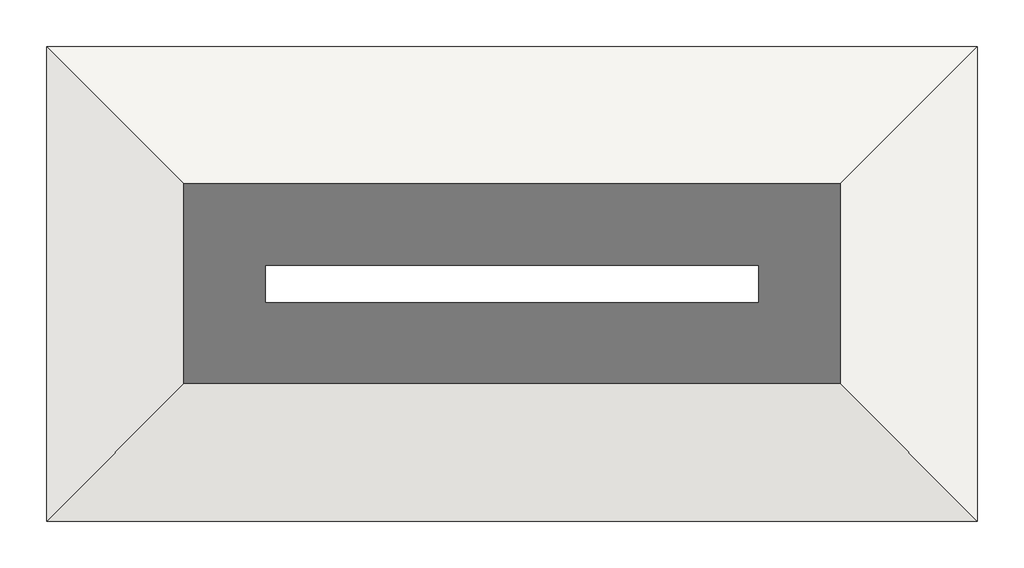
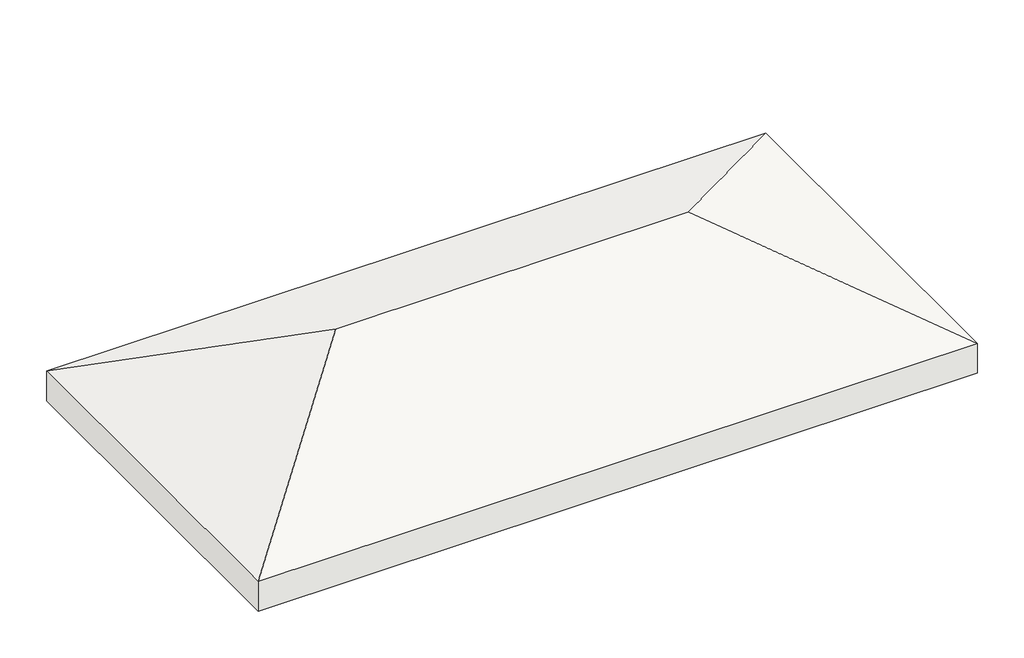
# One storey: 1 roof.
"""IFC4 building model written with IfcOpenShell, lengths in millimetres."""

import ifcopenshell
import ifcopenshell.guid

model = None  # the IFC model being written
_history = None  # IfcOwnerHistory: only IFC2X3 demands one
_inside = {}  # id of a spatial element -> (the spatial element, [elements in it])
_under = {}  # id of a project, library or spatial element -> (it, [spatial elements below it])
_declared = {}  # id of a project -> (the project, [libraries it declares])
_typed = {}  # id of a type object -> (the type object, [elements of that type])
_made_of = {}  # id of a material, layer set ... -> (it, [elements and type objects made of it])


def new_model(schema):
    """Start an empty IFC model of exactly this schema.

    Asked for "IFC4X3", IfcOpenShell would pick the latest addendum, in which some entities
    have other attributes; the version numbers below select the first issue.
    IFC2X3 requires an IfcOwnerHistory on every rooted entity: one is made here for all.
    """
    global model, _history
    if schema == "IFC4X3":
        model = ifcopenshell.file(schema_version=(4, 3, 0, 0))
    else:
        model = ifcopenshell.file(schema=schema)
    _inside.clear()
    _under.clear()
    _declared.clear()
    _typed.clear()
    _made_of.clear()
    _history = None
    if model.schema == "IFC2X3":
        org = make("IfcOrganization", Name="unknown")
        user = make(
            "IfcPersonAndOrganization",
            ThePerson=make("IfcPerson", FamilyName="unknown"),
            TheOrganization=org,
        )
        app = make(
            "IfcApplication",
            ApplicationDeveloper=org,
            Version="unknown",
            ApplicationFullName="unknown",
            ApplicationIdentifier="unknown",
        )
        _history = make(
            "IfcOwnerHistory",
            OwningUser=user,
            OwningApplication=app,
            ChangeAction="ADDED",
            CreationDate=0,
        )
    return model


def make(cls, **values):
    """One entity of the class cls with the attributes given. An attribute that is None is left unset."""
    return model.create_entity(
        cls, **{name: value for name, value in values.items() if value is not None}
    )


def rooted(cls, **values):
    """An entity with a GlobalId (a new one), such as an element, a storey or a relation."""
    return make(cls, GlobalId=ifcopenshell.guid.new(), OwnerHistory=_history, **values)


def si_unit(unit_type, name, prefix=None):
    """IfcSIUnit, for example si_unit("LENGTHUNIT", "METRE", prefix="MILLI")."""
    return make("IfcSIUnit", UnitType=unit_type, Prefix=prefix, Name=name)


def assignment(units):
    """IfcUnitAssignment: the units of a project."""
    return None if units is None else make("IfcUnitAssignment", Units=units)


def point(xyz):
    """IfcCartesianPoint."""
    return None if xyz is None else make("IfcCartesianPoint", Coordinates=xyz)


def direction(xyz):
    """IfcDirection."""
    return None if xyz is None else make("IfcDirection", DirectionRatios=xyz)


def frame(location, z_axis=None, x_axis=None):
    """IfcAxis2Placement3D, a coordinate frame: its origin and axes. An axis left out is left unset."""
    return make(
        "IfcAxis2Placement3D",
        Location=point(location),
        Axis=direction(z_axis),
        RefDirection=direction(x_axis),
    )


def origin():
    """The frame at (0, 0, 0) with its axes left unset."""
    return frame((0.0, 0.0, 0.0))


def place(relative_to, where):
    """IfcLocalPlacement: puts the frame where relative to a parent placement (None: the world)."""
    return make(
        "IfcLocalPlacement", PlacementRelTo=relative_to, RelativePlacement=where
    )


def context(
    kind, dimensions, precision=None, world=None, true_north=None, identifier=None
):
    """IfcGeometricRepresentationContext, for example the 3D "Model" context."""
    return make(
        "IfcGeometricRepresentationContext",
        ContextIdentifier=identifier,
        ContextType=kind,
        CoordinateSpaceDimension=dimensions,
        Precision=precision,
        WorldCoordinateSystem=world,
        TrueNorth=true_north,
    )


def project(units=None, contexts=None):
    """IfcProject with its units and contexts."""
    return rooted(
        "IfcProject",
        Name="project",
        RepresentationContexts=contexts,
        UnitsInContext=assignment(units),
    )


def spatial(cls, under=None, at=None, **own):
    """A site, building, storey or space (cls), placed at a placement, below another one or the project."""
    s = rooted(cls, ObjectPlacement=at, **own)
    if under is not None:
        _under.setdefault(under.id(), (under, []))[1].append(s)
    return s


def faces_of(points, faces, orient=None, outer=None):
    """IfcFace entities. A face is a list of loops; a loop is a list of indices into points, from 0.

    orient and outer hold one flag for each loop. By default every Orientation is true, the
    first loop of a face is its IfcFaceOuterBound and the others are IfcFaceBound.
    """
    made = []
    for i, loops in enumerate(faces):
        bounds = []
        for j, loop in enumerate(loops):
            is_outer = j == 0 if outer is None else outer[i][j]
            bounds.append(
                make(
                    "IfcFaceOuterBound" if is_outer else "IfcFaceBound",
                    Bound=make("IfcPolyLoop", Polygon=[points[k] for k in loop]),
                    Orientation=True if orient is None else orient[i][j],
                )
            )
        made.append(make("IfcFace", Bounds=bounds))
    return made


def faceted_brep(points, faces, orient=None, outer=None, voids=None):
    """IfcFacetedBrep: a solid bounded by flat faces; with voids (closed shells), ...WithVoids."""
    shared = [point(p) for p in points]
    hull = make("IfcClosedShell", CfsFaces=faces_of(shared, faces, orient, outer))
    if voids is None:
        return make("IfcFacetedBrep", Outer=hull)
    return make(
        "IfcFacetedBrepWithVoids",
        Outer=hull,
        Voids=[
            make(cls, CfsFaces=faces_of(shared, fs, o, b)) for cls, fs, o, b in voids
        ],
    )


def shape(context_of_items, identifier, shape_type, items):
    """IfcShapeRepresentation: the items that make up one representation, for example the "Body"."""
    return make(
        "IfcShapeRepresentation",
        ContextOfItems=context_of_items,
        RepresentationIdentifier=identifier,
        RepresentationType=shape_type,
        Items=items,
    )


def made_of(thing, what):
    """Note that an element or type object is made of a material, layer set ...; save() writes the relation."""
    if what is not None:
        _made_of.setdefault(what.id(), (what, []))[1].append(thing)
    return thing


def element(
    cls,
    number,
    at=None,
    inside=None,
    cuts=None,
    type_object=None,
    material=None,
    context=None,
    identifier="Body",
    shape_type=None,
    held_by="IfcProductDefinitionShape",
    body=None,
    shapes=None,
    **own,
):
    """One element of the class cls, such as IfcWall. Its Tag is "e" and its number.

    at: its placement. inside: the storey or other place that contains it. cuts: it is an
    opening in that element (IfcRelVoidsElement). A single representation is given by context,
    identifier, shape_type and body (its items); several are given by shapes. held_by: the class
    of the entity that holds the representations. save() writes the other relations.
    """
    e = rooted(cls, Tag="e%d" % number, ObjectPlacement=at, **own)
    if body is not None:
        shapes = [shape(context, identifier, shape_type, body)]
    if shapes is not None:
        e.Representation = make(held_by, Representations=shapes)
    if inside is not None:
        _inside.setdefault(inside.id(), (inside, []))[1].append(e)
    if cuts is not None:
        rooted(
            "IfcRelVoidsElement", RelatingBuildingElement=cuts, RelatedOpeningElement=e
        )
    if type_object is not None:
        _typed.setdefault(type_object.id(), (type_object, []))[1].append(e)
    return made_of(e, material)


def aggregate(whole, parts):
    """IfcRelAggregates: a whole, such as a stair, and the parts it consists of."""
    return rooted("IfcRelAggregates", RelatingObject=whole, RelatedObjects=parts)


def save(model, path):
    """Write the relations noted so far, then the file.

    IfcRelAggregates (storeys below a building ...), IfcRelContainedInSpatialStructure (elements
    in a storey), IfcRelDefinesByType, IfcRelAssociatesMaterial and IfcRelDeclares: one each for
    every whole, place, type object, material and project.
    """
    for whole, parts in _under.values():
        aggregate(whole, parts)
    for where, things in _inside.values():
        rooted(
            "IfcRelContainedInSpatialStructure",
            RelatedElements=things,
            RelatingStructure=where,
        )
    for kind, things in _typed.values():
        rooted("IfcRelDefinesByType", RelatedObjects=things, RelatingType=kind)
    for what, things in _made_of.values():
        rooted("IfcRelAssociatesMaterial", RelatedObjects=things, RelatingMaterial=what)
    for by, libraries in _declared.values():
        rooted("IfcRelDeclares", RelatingContext=by, RelatedDefinitions=libraries)
    model.write(path)


model = new_model("IFC4")

# Units and contexts
model_context = context("Model", 3, world=origin())
ifc_project = project(units=[si_unit("LENGTHUNIT", "METRE", prefix="MILLI")], contexts=[model_context])

# Site, building, storey
site = spatial("IfcSite", under=ifc_project)
building = spatial("IfcBuilding", under=site)
storey = spatial("IfcBuildingStorey", under=building, Name="レベル 2", Elevation=4000.0)

# Roof
placement = place(None, origin())
element("IfcRoof", 1, ObjectType="一般 - 400 mm", at=placement, inside=storey, context=model_context, shape_type="Brep", body=[
    faceted_brep([(2575.0000038, 0.0, 5300.0000019), (5175.0000076, -2600.0000038, 4000.0), (-5025.0000076, -2600.0000038, 4000.0), (-2425.0000038, 0.0, 5300.0000019), (5175.0000076, 2600.0000038, 4000.0), (-5025.0000076, 2600.0000038, 4000.0), (5175.0000076, -2600.0000038, 4447.2135955), (2575.0000038, 0.0, 5747.2135974), (-2425.0000038, 0.0, 5747.2135974), (-5025.0000076, -2600.0000038, 4447.2135955), (5175.0000076, 2600.0000038, 4447.2135955), (-5025.0000076, 2600.0000038, 4447.2135955)], [[[0, 1, 2, 3]], [[1, 0, 4]], [[5, 3, 2]], [[4, 0, 3, 5]], [[6, 7, 8, 9]], [[6, 10, 7]], [[11, 9, 8]], [[10, 11, 8, 7]], [[4, 10, 6, 1]], [[5, 11, 10, 4]], [[2, 9, 11, 5]], [[1, 6, 9, 2]]]),
])

save(model, "model.ifc")
